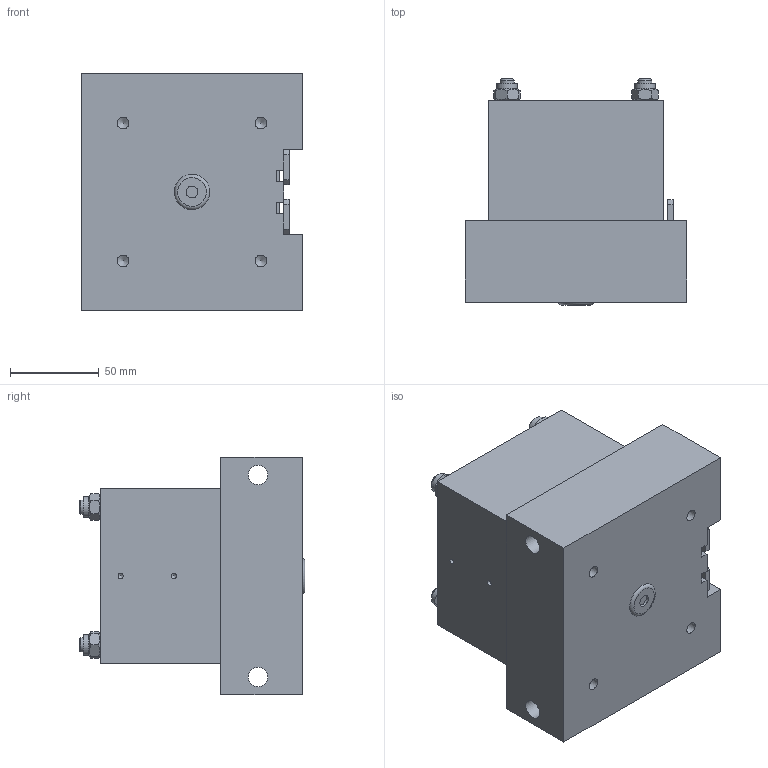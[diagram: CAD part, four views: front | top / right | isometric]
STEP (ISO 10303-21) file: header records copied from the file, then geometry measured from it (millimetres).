
FILE_DESCRIPTION((''),'2;1');
FILE_NAME('C:\VaultWork\Zeichnungen\Maßblätter\Multizylinder\M 90\M90-12\M01858-4-0 Maßblatt Multizylinder M90-3-12 berührungslose Abfrage.stp','2014-01-22T13:48:57',('Sergeew'),(''),'Autodesk Inventor 2012','Autodesk Inventor 2012','');
FILE_SCHEMA(('AUTOMOTIVE_DESIGN { 1 0 10303 214 1 1 1 1 }'));
Length unit declared in the file: millimetre
Products named in the file (1): M01858-4-0 Maßblatt Multizylinder M90-3-12 berührungslose Abfrage
Bounding box: 125 x 127.5 x 134 mm (x, y, z)
Volume: 1373488.6 mm3; surface area: 110223.8 mm2
Topology: 1 solids, 5 shells, 174 faces, 423 edges, 278 vertices
Faces by surface type: plane 105, cylinder 40, cone 28, torus 1
Full cylindrical faces by diameter (mm): 3 x2, 4.3 x4, 5 x1, 6.647 x5, 8 x8, 8.566 x2, 9 x4, 10 x4, 11 x2, 11.6 x4
Entity records: 4513 total; most frequent: CARTESIAN_POINT 835, DIRECTION 722, ORIENTED_EDGE 644, EDGE_CURVE 322, AXIS2_PLACEMENT_3D 273, EDGE_LOOP 270, VERTEX_POINT 242, VECTOR 176
